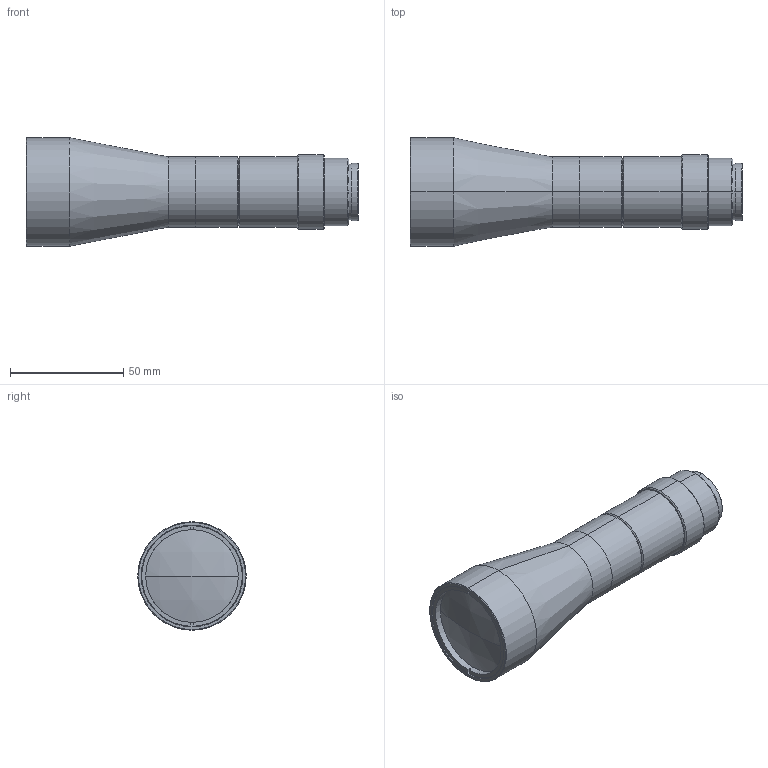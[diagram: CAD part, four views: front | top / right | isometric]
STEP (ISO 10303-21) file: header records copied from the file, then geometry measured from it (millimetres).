
FILE_DESCRIPTION (( 'STEP AP203' ), '1' );
FILE_NAME ('FJ1382-001-R02.STEP', '2019-07-13T08:45:36', ( '' ), ( '' ), 'SwSTEP 2.0', 'SolidWorks 2016', '' );
FILE_SCHEMA (( 'CONFIG_CONTROL_DESIGN' ));
Length unit declared in the file: millimetre
Products named in the file (9): FJ1382-101-B-R00(梨地,塗装,分割); FJ1382-104-R02(梨地,塗装); FJ1382-106-R00; FJ1382-G05-R00; FJ1382-107-R00; FJ1382-001-R02; FJ1382-101-A-R00(梨地,塗装,分割); FJ1382-G01-R00; FJ1382-102-R00
Assembly tree (8 placements, depth 2):
  FJ1382-001-R02
    FJ1382-101-A-R00(梨地,塗装,分割)
    FJ1382-G01-R00
    FJ1382-102-R00
    FJ1382-101-B-R00(梨地,塗装,分割)
    FJ1382-104-R02(梨地,塗装)
    FJ1382-106-R00
    FJ1382-G05-R00
    FJ1382-107-R00
Bounding box: 146.88 x 48 x 48 mm (x, y, z)
Volume: 64077.9 mm3; surface area: 45524.9 mm2
Topology: 8 solids, 8 shells, 377 faces, 782 edges, 450 vertices
Faces by surface type: cone 218, cylinder 94, plane 57, sphere 8
Entity records: 10909 total; most frequent: DIRECTION 1984, CARTESIAN_POINT 1644, ORIENTED_EDGE 1564, AXIS2_PLACEMENT_3D 822, EDGE_CURVE 782, VERTEX_POINT 450, CIRCLE 434, EDGE_LOOP 418
